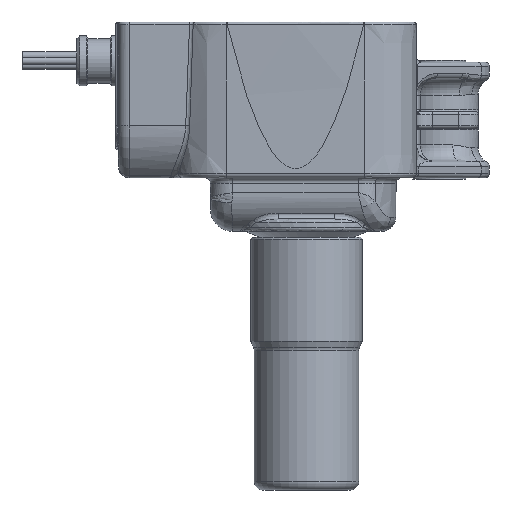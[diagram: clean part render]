
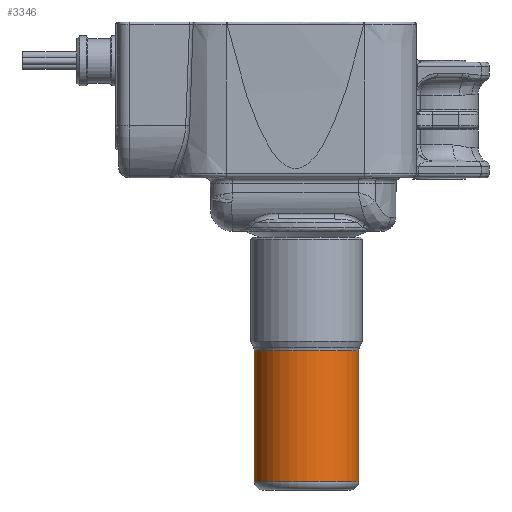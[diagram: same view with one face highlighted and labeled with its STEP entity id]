
A CAD part, front view. The second image highlights one B-rep face of the part: STEP entity #3346.
In plain terms, the highlighted cylindrical face has radius 9.4 mm (diameter 18.8 mm), a full revolution.
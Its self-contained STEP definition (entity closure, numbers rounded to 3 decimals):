
#3147=CYLINDRICAL_SURFACE('',#6798,9.4);
#3346=ADVANCED_FACE('',(#3682,#3683),#3147,.T.);
#3682=FACE_BOUND('',#3769,.T.);
#3683=FACE_BOUND('',#3770,.T.);
#3769=EDGE_LOOP('',(#4131));
#3770=EDGE_LOOP('',(#4132));
#4131=ORIENTED_EDGE('',*,*,#5860,.T.);
#4132=ORIENTED_EDGE('',*,*,#5859,.F.);
#5459=VERTEX_POINT('',#8482);
#5460=VERTEX_POINT('',#8485);
#5859=EDGE_CURVE('',#5459,#5459,#6525,.T.);
#5860=EDGE_CURVE('',#5460,#5460,#6526,.T.);
#6525=CIRCLE('',#6795,9.4);
#6526=CIRCLE('',#6797,9.4);
#6795=AXIS2_PLACEMENT_3D('',#8481,#7298,#7299);
#6797=AXIS2_PLACEMENT_3D('',#8484,#7302,#7303);
#6798=AXIS2_PLACEMENT_3D('',#8486,#7304,#7305);
#7298=DIRECTION('',(0.,0.,-1.));
#7299=DIRECTION('',(-1.,0.,0.));
#7302=DIRECTION('',(0.,0.,-1.));
#7303=DIRECTION('',(-1.,0.,0.));
#7304=DIRECTION('',(0.,0.,-1.));
#7305=DIRECTION('',(-1.,0.,0.));
#8481=CARTESIAN_POINT('',(0.,0.,-45.));
#8482=CARTESIAN_POINT('',(-9.4,0.,-45.));
#8484=CARTESIAN_POINT('',(0.,0.,-21.5));
#8485=CARTESIAN_POINT('',(-9.4,0.,-21.5));
#8486=CARTESIAN_POINT('',(0.,0.,-1.1));
